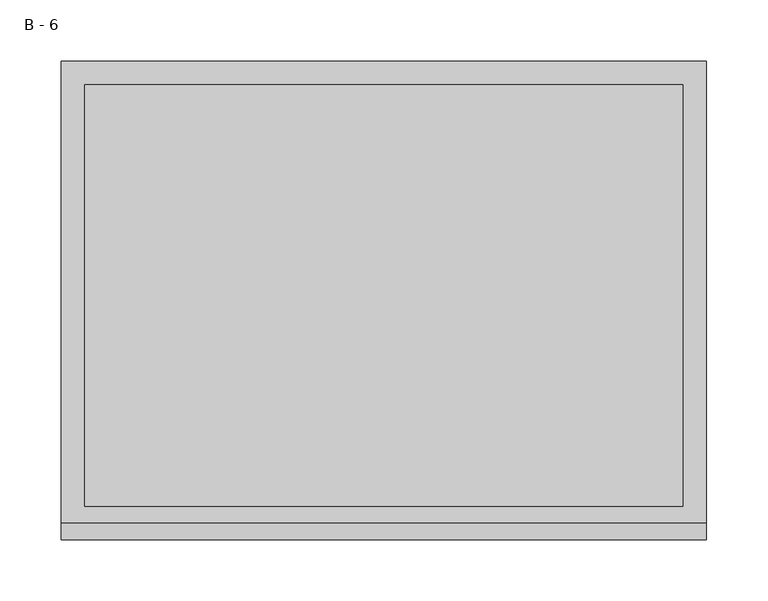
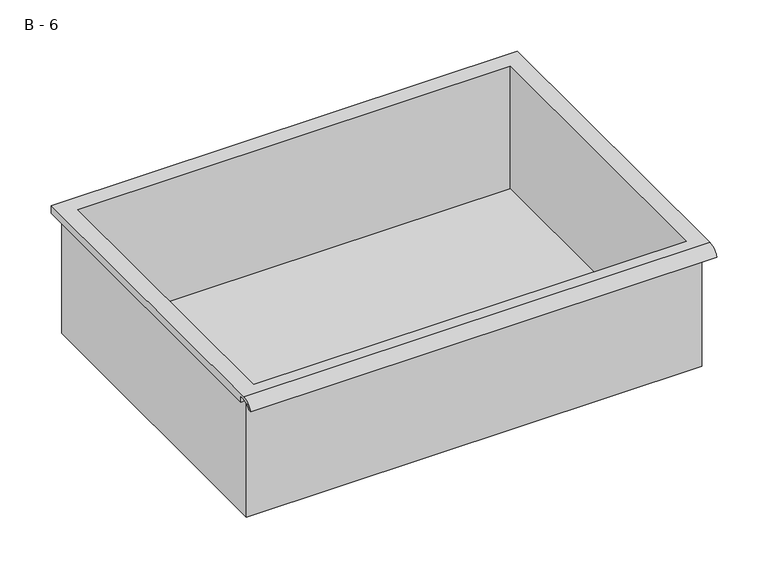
"""IFC4 building model written with IfcOpenShell, lengths in millimetres: furniture geometry, HermanMiller_CoStruc_CO207_Drawer : B - 6."""

import ifcopenshell
import ifcopenshell.guid

model = None  # the IFC model being written
_history = None  # IfcOwnerHistory: only IFC2X3 demands one
_inside = {}  # id of a spatial element -> (the spatial element, [elements in it])
_under = {}  # id of a project, library or spatial element -> (it, [spatial elements below it])
_declared = {}  # id of a project -> (the project, [libraries it declares])
_typed = {}  # id of a type object -> (the type object, [elements of that type])
_made_of = {}  # id of a material, layer set ... -> (it, [elements and type objects made of it])


def new_model(schema):
    """Start an empty IFC model of exactly this schema.

    Asked for "IFC4X3", IfcOpenShell would pick the latest addendum, in which some entities
    have other attributes; the version numbers below select the first issue.
    IFC2X3 requires an IfcOwnerHistory on every rooted entity: one is made here for all.
    """
    global model, _history
    if schema == "IFC4X3":
        model = ifcopenshell.file(schema_version=(4, 3, 0, 0))
    else:
        model = ifcopenshell.file(schema=schema)
    _inside.clear()
    _under.clear()
    _declared.clear()
    _typed.clear()
    _made_of.clear()
    _history = None
    if model.schema == "IFC2X3":
        org = make("IfcOrganization", Name="unknown")
        user = make(
            "IfcPersonAndOrganization",
            ThePerson=make("IfcPerson", FamilyName="unknown"),
            TheOrganization=org,
        )
        app = make(
            "IfcApplication",
            ApplicationDeveloper=org,
            Version="unknown",
            ApplicationFullName="unknown",
            ApplicationIdentifier="unknown",
        )
        _history = make(
            "IfcOwnerHistory",
            OwningUser=user,
            OwningApplication=app,
            ChangeAction="ADDED",
            CreationDate=0,
        )
    return model


def make(cls, **values):
    """One entity of the class cls with the attributes given. An attribute that is None is left unset."""
    return model.create_entity(
        cls, **{name: value for name, value in values.items() if value is not None}
    )


def rooted(cls, **values):
    """An entity with a GlobalId (a new one), such as an element, a storey or a relation."""
    return make(cls, GlobalId=ifcopenshell.guid.new(), OwnerHistory=_history, **values)


def si_unit(unit_type, name, prefix=None):
    """IfcSIUnit, for example si_unit("LENGTHUNIT", "METRE", prefix="MILLI")."""
    return make("IfcSIUnit", UnitType=unit_type, Prefix=prefix, Name=name)


def assignment(units):
    """IfcUnitAssignment: the units of a project."""
    return None if units is None else make("IfcUnitAssignment", Units=units)


def point(xyz):
    """IfcCartesianPoint."""
    return None if xyz is None else make("IfcCartesianPoint", Coordinates=xyz)


def direction(xyz):
    """IfcDirection."""
    return None if xyz is None else make("IfcDirection", DirectionRatios=xyz)


def frame(location, z_axis=None, x_axis=None):
    """IfcAxis2Placement3D, a coordinate frame: its origin and axes. An axis left out is left unset."""
    return make(
        "IfcAxis2Placement3D",
        Location=point(location),
        Axis=direction(z_axis),
        RefDirection=direction(x_axis),
    )


def origin():
    """The frame at (0, 0, 0) with its axes left unset."""
    return frame((0.0, 0.0, 0.0))


def place(relative_to, where):
    """IfcLocalPlacement: puts the frame where relative to a parent placement (None: the world)."""
    return make(
        "IfcLocalPlacement", PlacementRelTo=relative_to, RelativePlacement=where
    )


def context(
    kind, dimensions, precision=None, world=None, true_north=None, identifier=None
):
    """IfcGeometricRepresentationContext, for example the 3D "Model" context."""
    return make(
        "IfcGeometricRepresentationContext",
        ContextIdentifier=identifier,
        ContextType=kind,
        CoordinateSpaceDimension=dimensions,
        Precision=precision,
        WorldCoordinateSystem=world,
        TrueNorth=true_north,
    )


def project(units=None, contexts=None):
    """IfcProject with its units and contexts."""
    return rooted(
        "IfcProject",
        Name="project",
        RepresentationContexts=contexts,
        UnitsInContext=assignment(units),
    )


def spatial(cls, under=None, at=None, **own):
    """A site, building, storey or space (cls), placed at a placement, below another one or the project."""
    s = rooted(cls, ObjectPlacement=at, **own)
    if under is not None:
        _under.setdefault(under.id(), (under, []))[1].append(s)
    return s


def polyline(points):
    """IfcPolyline through the points."""
    return make("IfcPolyline", Points=[point(p) for p in points])


def circle_curve(where, radius):
    """IfcCircle in the frame where."""
    return make("IfcCircle", Position=where, Radius=radius)


def shape(context_of_items, identifier, shape_type, items):
    """IfcShapeRepresentation: the items that make up one representation, for example the "Body"."""
    return make(
        "IfcShapeRepresentation",
        ContextOfItems=context_of_items,
        RepresentationIdentifier=identifier,
        RepresentationType=shape_type,
        Items=items,
    )


def source(mapping_origin, context_of_items, identifier, shape_type, items):
    """IfcRepresentationMap: a shape defined once, which mapped items show again and again."""
    return make(
        "IfcRepresentationMap",
        MappingOrigin=mapping_origin,
        MappedRepresentation=shape(context_of_items, identifier, shape_type, items),
    )


def transform(
    local_origin,
    x_axis=None,
    y_axis=None,
    z_axis=None,
    scale=None,
    scale2=None,
    scale3=None,
    uniform=True,
):
    """IfcCartesianTransformationOperator3D, or its non-uniform kind. x_axis, y_axis, z_axis: its Axis1, 2, 3."""
    if uniform:
        return make(
            "IfcCartesianTransformationOperator3D",
            Axis1=direction(x_axis),
            Axis2=direction(y_axis),
            LocalOrigin=point(local_origin),
            Scale=scale,
            Axis3=direction(z_axis),
        )
    return make(
        "IfcCartesianTransformationOperator3DnonUniform",
        Axis1=direction(x_axis),
        Axis2=direction(y_axis),
        LocalOrigin=point(local_origin),
        Scale=scale,
        Axis3=direction(z_axis),
        Scale2=scale2,
        Scale3=scale3,
    )


def mapped(mapping_source, mapping_target):
    """IfcMappedItem: shows the shape of a source again, moved by a transform."""
    return make(
        "IfcMappedItem", MappingSource=mapping_source, MappingTarget=mapping_target
    )


def made_of(thing, what):
    """Note that an element or type object is made of a material, layer set ...; save() writes the relation."""
    if what is not None:
        _made_of.setdefault(what.id(), (what, []))[1].append(thing)
    return thing


def element(
    cls,
    number,
    at=None,
    inside=None,
    cuts=None,
    type_object=None,
    material=None,
    context=None,
    identifier="Body",
    shape_type=None,
    held_by="IfcProductDefinitionShape",
    body=None,
    shapes=None,
    **own,
):
    """One element of the class cls, such as IfcWall. Its Tag is "e" and its number.

    at: its placement. inside: the storey or other place that contains it. cuts: it is an
    opening in that element (IfcRelVoidsElement). A single representation is given by context,
    identifier, shape_type and body (its items); several are given by shapes. held_by: the class
    of the entity that holds the representations. save() writes the other relations.
    """
    e = rooted(cls, Tag="e%d" % number, ObjectPlacement=at, **own)
    if body is not None:
        shapes = [shape(context, identifier, shape_type, body)]
    if shapes is not None:
        e.Representation = make(held_by, Representations=shapes)
    if inside is not None:
        _inside.setdefault(inside.id(), (inside, []))[1].append(e)
    if cuts is not None:
        rooted(
            "IfcRelVoidsElement", RelatingBuildingElement=cuts, RelatedOpeningElement=e
        )
    if type_object is not None:
        _typed.setdefault(type_object.id(), (type_object, []))[1].append(e)
    return made_of(e, material)


def aggregate(whole, parts):
    """IfcRelAggregates: a whole, such as a stair, and the parts it consists of."""
    return rooted("IfcRelAggregates", RelatingObject=whole, RelatedObjects=parts)


def save(model, path):
    """Write the relations noted so far, then the file.

    IfcRelAggregates (storeys below a building ...), IfcRelContainedInSpatialStructure (elements
    in a storey), IfcRelDefinesByType, IfcRelAssociatesMaterial and IfcRelDeclares: one each for
    every whole, place, type object, material and project.
    """
    for whole, parts in _under.values():
        aggregate(whole, parts)
    for where, things in _inside.values():
        rooted(
            "IfcRelContainedInSpatialStructure",
            RelatedElements=things,
            RelatingStructure=where,
        )
    for kind, things in _typed.values():
        rooted("IfcRelDefinesByType", RelatedObjects=things, RelatingType=kind)
    for what, things in _made_of.values():
        rooted("IfcRelAssociatesMaterial", RelatedObjects=things, RelatingMaterial=what)
    for by, libraries in _declared.values():
        rooted("IfcRelDeclares", RelatingContext=by, RelatedDefinitions=libraries)
    model.write(path)


def plane_surface(at):
    """IfcPlane: the flat surface through the origin of the frame at, square to its z axis."""
    return make("IfcPlane", Position=at)


def cylinder_surface(at, radius):
    """IfcCylindricalSurface: all points at the distance radius from the z axis of the frame at."""
    return make("IfcCylindricalSurface", Position=at, Radius=radius)


def revolved_surface(curve, axis_point, axis_direction):
    """IfcSurfaceOfRevolution: the curve turned about the line through axis_point along axis_direction."""
    return make(
        "IfcSurfaceOfRevolution",
        SweptCurve=make("IfcArbitraryOpenProfileDef", ProfileType="CURVE", Curve=curve),
        AxisPosition=make("IfcAxis1Placement", Location=point(axis_point), Axis=direction(axis_direction)),
    )


def advanced_brep(points, edges, surfaces, faces):
    """IfcAdvancedBrep: a solid bounded by faces that lie on surfaces and meet in shared edges.

    An edge is (start, end): straight between two places in points (the first is 0);
    or (start, end, curve); or (start, end, curve, False) where it runs against its curve.
    A face is (place in surfaces, loops), or (place, loops, False) where it looks against
    its surface's normal. A loop lists edges by number (the first is 1), with a minus sign
    where the edge is run from its end to its start. The first loop is the outer one.
    """
    corners = [point(p) for p in points]
    vertices = [make("IfcVertexPoint", VertexGeometry=c) for c in corners]
    made = []
    for start, end, *more in edges:
        made.append(
            make(
                "IfcEdgeCurve",
                EdgeStart=vertices[start],
                EdgeEnd=vertices[end],
                EdgeGeometry=more[0] if more else make("IfcPolyline", Points=[corners[start], corners[end]]),
                SameSense=more[1] if len(more) > 1 else True,
            )
        )
    hull = []
    for where, loops, *sense in faces:
        bounds = []
        for j, loop in enumerate(loops):
            ring = [make("IfcOrientedEdge", EdgeElement=made[abs(k) - 1], Orientation=k > 0) for k in loop]
            bounds.append(
                make(
                    "IfcFaceOuterBound" if j == 0 else "IfcFaceBound",
                    Bound=make("IfcEdgeLoop", EdgeList=ring),
                    Orientation=True,
                )
            )
        hull.append(make("IfcAdvancedFace", Bounds=bounds, FaceSurface=surfaces[where], SameSense=sense[0] if sense else True))
    return make("IfcAdvancedBrep", Outer=make("IfcClosedShell", CfsFaces=hull))


def b_6_ad6fc926(model_context):
    return source(origin(), model_context, "Body", "AdvancedBrep", [
        advanced_brep(
        [(-257.1076517, -176.2125, 419.1), (257.2423483, -176.2125, 419.1), (257.2423483, -176.2125, 558.8), (263.5923483, -176.2125, 558.8), (263.5923483, -176.2125, 565.1071341), (-263.4576517, -176.2125, 565.1071341), (-263.4576517, -176.2125, 558.8), (-257.1076517, -176.2125, 558.8), (257.2423483, 185.7375, 419.1), (-257.1076517, 185.7375, 419.1), (-257.1076517, 185.7375, 558.8), (257.2423483, 185.7375, 558.8), (263.5923483, -181.6070544, 568.325), (263.5923483, 195.2625, 568.325), (-263.4576517, 195.2625, 568.325), (-263.4576517, -181.6070544, 568.325), (244.5423483, -168.275, 568.325), (-244.4076517, -168.275, 568.325), (-244.4076517, 176.2125, 568.325), (244.5423483, 176.2125, 568.325), (263.5923483, -195.2625, 558.8), (263.5923483, -191.8280601, 558.8), (263.5923483, -180.4714815, 565.1071341), (263.5923483, 195.2625, 558.8), (-263.4576517, 195.2625, 558.8), (-263.4576517, -180.4714815, 565.1071341), (-263.4576517, -191.8280601, 558.8), (-263.4576517, -195.2625, 558.8), (-244.4076517, -168.275, 422.1261719), (244.5423483, -168.275, 422.1261719), (244.5423483, 176.2125, 422.1261719), (-244.4076517, 176.2125, 422.1261719)],
        [
            (0, 1),
            (1, 2),
            (2, 3),
            (3, 4),
            (4, 5),
            (5, 6),
            (6, 7),
            (7, 0),
            (8, 9),
            (9, 10),
            (10, 11),
            (11, 8),
            (0, 9),
            (8, 1),
            (11, 2),
            (12, 13),
            (13, 14),
            (14, 15),
            (15, 12),
            (16, 17),
            (17, 18),
            (18, 19),
            (19, 16),
            (7, 10),
            (12, 20, circle_curve(frame((263.5923483, -181.6070544, 553.7739859), z_axis=(1.0, 0.0, 0.0), x_axis=(0.0, 1.0, 0.0)), 14.5510141)),
            (20, 21),
            (21, 22, circle_curve(frame((263.5923483, -181.6070544, 553.7739859), z_axis=(-1.0, 0.0, 0.0), x_axis=(0.0, 1.0, 0.0)), 11.3898979)),
            (22, 4),
            (3, 23),
            (23, 13),
            (14, 24),
            (24, 6),
            (5, 25),
            (25, 26, circle_curve(frame((-263.4576517, -181.6070544, 553.7739859), z_axis=(1.0, 0.0, 0.0), x_axis=(0.0, 1.0, 0.0)), 11.3898979)),
            (26, 27),
            (27, 15, circle_curve(frame((-263.4576517, -181.6070544, 553.7739859), z_axis=(-1.0, 0.0, 0.0), x_axis=(0.0, 1.0, 0.0)), 14.5510141)),
            (27, 20),
            (26, 21),
            (25, 22),
            (24, 23),
            (28, 29),
            (29, 30),
            (30, 31),
            (31, 28),
            (28, 17),
            (16, 29),
            (19, 30),
            (18, 31),
        ],
        [
            plane_surface(frame((257.2423483, -176.2125, 419.1), z_axis=(0.0, -1.0, 0.0), x_axis=(1.0, 0.0, 0.0))),
            plane_surface(frame((257.2423483, 185.7375, 419.1), z_axis=(0.0, 1.0, 0.0), x_axis=(-1.0, 0.0, 0.0))),
            plane_surface(frame((-257.1076517, -176.2125, 419.1), z_axis=(0.0, 0.0, -1.0), x_axis=(0.0, 1.0, 0.0))),
            plane_surface(frame((257.2423483, -176.2125, 419.1), z_axis=(1.0, 0.0, 0.0), x_axis=(0.0, 1.0, 0.0))),
            plane_surface(frame((257.2423483, -176.2125, 568.325), z_axis=(0.0, 0.0, 1.0), x_axis=(0.0, 1.0, 0.0))),
            plane_surface(frame((-257.1076517, -176.2125, 568.325), z_axis=(-1.0, 0.0, 0.0), x_axis=(0.0, 1.0, 0.0))),
            plane_surface(frame((263.5923483, 195.2625, 568.325), z_axis=(1.0, 0.0, 0.0), x_axis=(0.0, -1.0, 0.0))),
            plane_surface(frame((-263.4576517, 195.2625, 568.325), z_axis=(-1.0, 0.0, 0.0), x_axis=(0.0, 1.0, 0.0))),
            cylinder_surface(frame((-263.4576517, -181.6070544, 553.7739859), z_axis=(1.0, 0.0, 0.0), x_axis=(0.0, 1.0, 0.0)), 14.5510141),
            plane_surface(frame((263.5923483, -195.2625, 558.8), z_axis=(0.0, -7.350351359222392e-12, -1.0), x_axis=(-1.0, 0.0, 0.0))),
            revolved_surface(polyline([(-263.4576517, -170.21715650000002, 553.7739859), (263.59234829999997, -170.21715650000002, 553.7739859)]), (-263.4576517, -181.6070544, 553.7739859), (-1.0, 0.0, 0.0)),
            plane_surface(frame((263.5923483, -180.4714815, 565.1071341), z_axis=(0.0, -1.8131556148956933e-11, -1.0), x_axis=(-1.0, 0.0, 0.0))),
            plane_surface(frame((263.5923483, -176.2125, 558.8), z_axis=(0.0, 0.0, -1.0), x_axis=(-1.0, 0.0, 0.0))),
            plane_surface(frame((263.5923483, 195.2625, 558.8), z_axis=(0.0, 1.0, 0.0), x_axis=(-1.0, 0.0, 0.0))),
            plane_surface(frame((244.5423483, -168.275, 422.1261719), z_axis=(0.0, 0.0, 1.0), x_axis=(-1.0, 0.0, 0.0))),
            plane_surface(frame((-244.4076517, -168.275, 568.325), z_axis=(0.0, 1.0, 0.0), x_axis=(0.0, 0.0, -1.0))),
            plane_surface(frame((244.5423483, -168.275, 568.325), z_axis=(-1.0, 0.0, 0.0), x_axis=(0.0, 0.0, -1.0))),
            plane_surface(frame((244.5423483, 176.2125, 568.325), z_axis=(0.0, -1.0, 0.0), x_axis=(0.0, 0.0, -1.0))),
            plane_surface(frame((-244.4076517, 176.2125, 568.325), z_axis=(1.0, 0.0, 0.0), x_axis=(0.0, 0.0, -1.0))),
        ],
        [
            (0, [[1, 2, 3, 4, 5, 6, 7, 8]]),
            (1, [[9, 10, 11, 12]]),
            (2, [[-1, 13, -9, 14]]),
            (3, [[-14, -12, 15, -2]]),
            (4, [[16, 17, 18, 19], [20, 21, 22, 23]]),
            (5, [[-13, -8, 24, -10]]),
            (6, [[-16, 25, 26, 27, 28, -4, 29, 30]]),
            (7, [[31, 32, -6, 33, 34, 35, 36, -18]]),
            (8, [[-25, -19, -36, 37]]),
            (9, [[-26, -37, -35, 38]]),
            (10, [[-27, -38, -34, 39]]),
            (11, [[-28, -39, -33, -5]]),
            (12, [[-29, -3, -15, -11, -24, -7, -32, 40]]),
            (13, [[-30, -40, -31, -17]]),
            (14, [[41, 42, 43, 44]]),
            (15, [[-41, 45, -20, 46]]),
            (16, [[-42, -46, -23, 47]]),
            (17, [[-43, -47, -22, 48]]),
            (18, [[-44, -48, -21, -45]]),
        ],
    ),
    ])


if __name__ == "__main__":
    model = new_model("IFC4")
    model_context = context("Model", 3, world=origin())
    ifc_project = project(units=[si_unit("LENGTHUNIT", "METRE", prefix="MILLI")], contexts=[model_context])
    site = spatial("IfcSite", under=ifc_project)
    building = spatial("IfcBuilding", under=site)
    placement = place(None, origin())
    b_6_shape = b_6_ad6fc926(model_context)
    element("IfcFurniture", 1, ObjectType="HermanMiller_CoStruc_CO207_Drawer : B - 6", at=placement, inside=building, context=model_context, shape_type="MappedRepresentation", body=[
        mapped(b_6_shape, transform((0.0, 0.0, 0.0), x_axis=(1.0, 0.0, 0.0), y_axis=(0.0, 1.0, 0.0), z_axis=(0.0, 0.0, 1.0))),
    ])
    save(model, "model.ifc")
